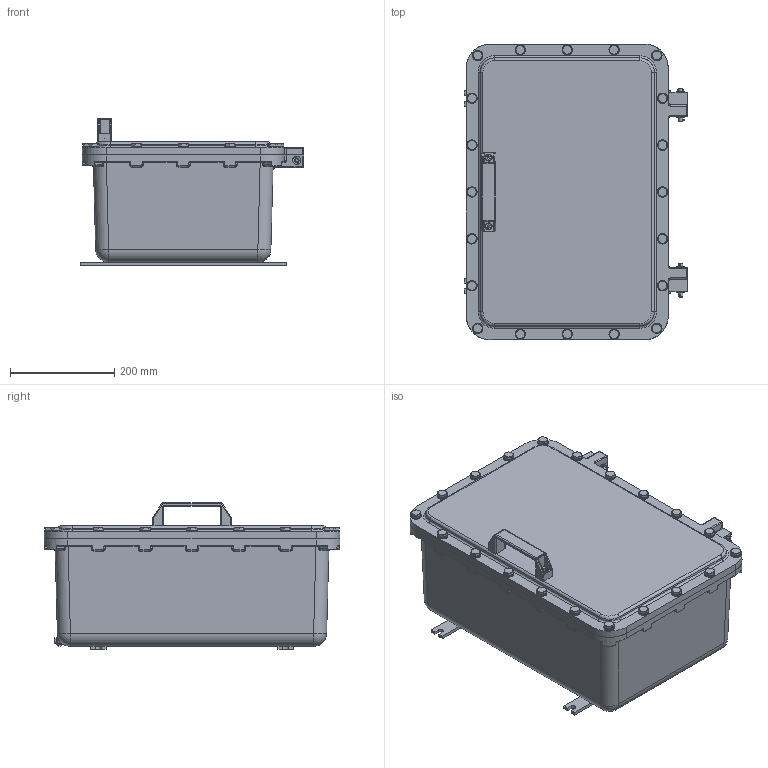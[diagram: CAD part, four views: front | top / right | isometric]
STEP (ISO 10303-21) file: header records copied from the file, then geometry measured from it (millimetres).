
FILE_DESCRIPTION((''),'2;1');
FILE_NAME('\\file-server\cortem_klient\INVENTOR БАЗА МОДЕЛЕЙ\Актуальная база моделей для отдела продаж\ЩОРВ-Н\ЩОРВ-Н563823.stp','2019-04-10T14:54:47',('V.E.Dolguev'),(''),'Autodesk Inventor 2012','Autodesk Inventor 2012','');
FILE_SCHEMA(('AUTOMOTIVE_DESIGN { 1 0 10303 214 1 1 1 1 }'));
Length unit declared in the file: millimetre
Products named in the file (1): ЩОРВ-Н563823
Bounding box: 429.55 x 568 x 282.2 mm (x, y, z)
Surface area: 1752047.9 mm2 (no closed solid volume)
Topology: 0 solids, 71 shells, 2107 faces, 4887 edges, 3006 vertices
Faces by surface type: plane 747, cylinder 576, bspline 436, cone 218, sphere 82, torus 48
Full cylindrical faces by diameter (mm): 2.1 x4, 3 x8, 4.9 x6, 4.917 x1, 5 x4, 6 x3, 6.4 x1, 6.5 x2, 6.647 x2, 7.9 x3, 8 x4, 8.4 x30, 8.5 x6, 9.188 x20, 10 x24, 10.5 x40, 11 x4, 12 x1, 13 x2, 13.5 x2, 15.4 x20, 16 x6, 20 x24
Entity records: 76638 total; most frequent: CARTESIAN_POINT 30440, ORIENTED_EDGE 8920, DIRECTION 8412, EDGE_CURVE 4460, AXIS2_PLACEMENT_3D 3301, VERTEX_POINT 2929, EDGE_LOOP 2717, FACE_OUTER_BOUND 2107
